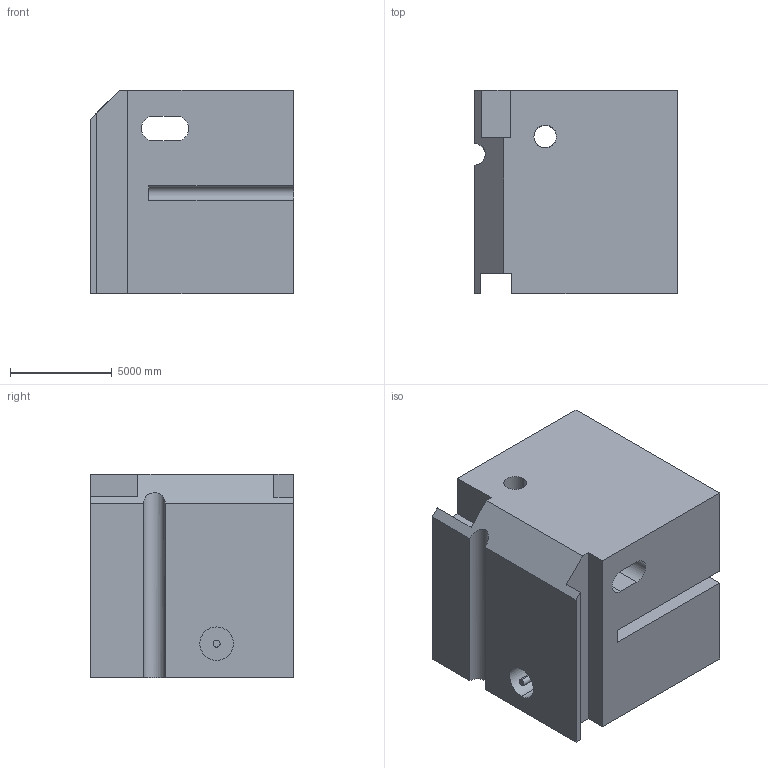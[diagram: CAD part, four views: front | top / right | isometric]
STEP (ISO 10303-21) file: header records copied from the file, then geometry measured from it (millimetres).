
FILE_DESCRIPTION (( 'STEP AP203' ), '1' );
FILE_NAME ('189.STEP', '2022-09-06T16:18:09', ( 'user' ), ( '' ), 'SwSTEP 2.0', 'SolidWorks 2021', '' );
FILE_SCHEMA (( 'CONFIG_CONTROL_DESIGN' ));
Length unit declared in the file: centimetre
Products named in the file (1): 189
Bounding box: 10000 x 10000 x 10000 mm (x, y, z)
Volume: 894657003549 mm3; surface area: 799864745.5 mm2
Topology: 1 solids, 1 shells, 43 faces, 123 edges, 82 vertices
Faces by surface type: plane 24, cylinder 19
Entity records: 2366 total; most frequent: CARTESIAN_POINT 1147, ORIENTED_EDGE 246, DIRECTION 225, EDGE_CURVE 123, VERTEX_POINT 82, VECTOR 79, LINE 79, AXIS2_PLACEMENT_3D 73
